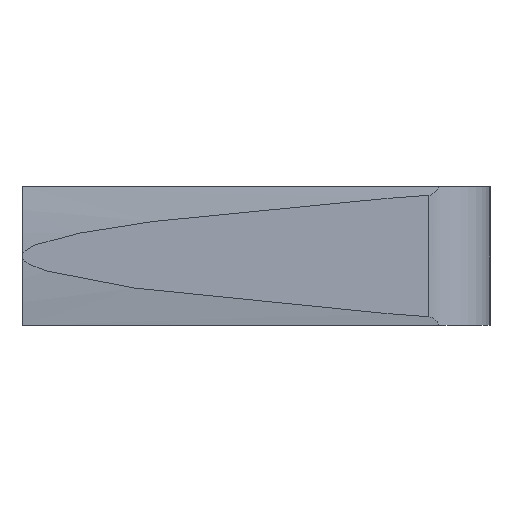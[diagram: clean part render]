
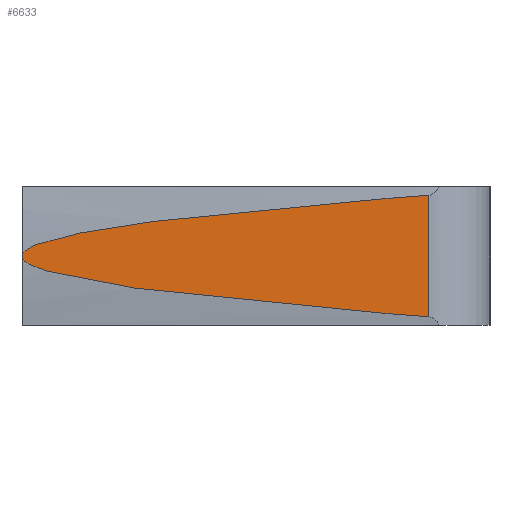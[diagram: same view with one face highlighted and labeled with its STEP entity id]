
A CAD part, left-side view. The second image highlights one B-rep face of the part: STEP entity #6633.
In plain terms, the highlighted planar face has unit normal (-1, -0.009, 0).
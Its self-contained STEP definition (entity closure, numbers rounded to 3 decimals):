
#4833 = EDGE_CURVE( '', #7547, #9505, #11603, .T. );
#4857 = EDGE_CURVE( '', #9155, #5093, #11628, .T. );
#5093 = VERTEX_POINT( '', #11876 );
#6427 = VERTEX_POINT( '', #13318 );
#6633 = ADVANCED_FACE( '', ( #13539 ), #13540, .F. );
#6987 = EDGE_CURVE( '', #7547, #6427, #13924, .T. );
#7547 = VERTEX_POINT( '', #14533 );
#8113 = EDGE_CURVE( '', #9155, #9505, #15135, .T. );
#8837 = EDGE_CURVE( '', #6427, #5093, #15922, .T. );
#9155 = VERTEX_POINT( '', #16267 );
#9505 = VERTEX_POINT( '', #16636 );
#11603 = ( B_SPLINE_CURVE( 2, ( #19666, #19667, #19668 ), .UNSPECIFIED., .F., .F. )B_SPLINE_CURVE_WITH_KNOTS( ( 3, 3 ), ( 52.222, 53.646 ), .UNSPECIFIED. )RATIONAL_B_SPLINE_CURVE( ( 1., 1., 1. ) )BOUNDED_CURVE(  )REPRESENTATION_ITEM( '' )GEOMETRIC_REPRESENTATION_ITEM(  )CURVE(  ) );
#11628 = ( B_SPLINE_CURVE( 2, ( #19716, #19717, #19718 ), .UNSPECIFIED., .F., .F. )B_SPLINE_CURVE_WITH_KNOTS( ( 3, 3 ), ( 0., 1.423 ), .UNSPECIFIED. )RATIONAL_B_SPLINE_CURVE( ( 1., 1., 1. ) )BOUNDED_CURVE(  )REPRESENTATION_ITEM( '' )GEOMETRIC_REPRESENTATION_ITEM(  )CURVE(  ) );
#11876 = CARTESIAN_POINT( '', ( -19.793, -23.708, 3.74 ) );
#13318 = CARTESIAN_POINT( '', ( -20., 0., 0. ) );
#13539 = FACE_OUTER_BOUND( '', #22803, .T. );
#13540 = PLANE( '', #22804 );
#13924 = ( B_SPLINE_CURVE( 2, ( #23441, #23442, #23443, #23444, #23445 ), .UNSPECIFIED., .F., .F. )B_SPLINE_CURVE_WITH_KNOTS( ( 3, 1, 1, 3 ), ( 0.371, 5.403, 10.047, 24.819 ), .UNSPECIFIED. )RATIONAL_B_SPLINE_CURVE( ( 1., 1., 0.999, 0.999, 1. ) )BOUNDED_CURVE(  )REPRESENTATION_ITEM( '' )GEOMETRIC_REPRESENTATION_ITEM(  )CURVE(  ) );
#14533 = CARTESIAN_POINT( '', ( -19.793, -23.708, -3.74 ) );
#15135 = LINE( '', #25524, #25525 );
#15922 = ( B_SPLINE_CURVE( 2, ( #26824, #26825, #26826, #26827, #26828 ), .UNSPECIFIED., .F., .F. )B_SPLINE_CURVE_WITH_KNOTS( ( 3, 1, 1, 3 ), ( 24.819, 39.572, 44.221, 49.267 ), .UNSPECIFIED. )RATIONAL_B_SPLINE_CURVE( ( 1., 0.999, 0.999, 1., 1. ) )BOUNDED_CURVE(  )REPRESENTATION_ITEM( '' )GEOMETRIC_REPRESENTATION_ITEM(  )CURVE(  ) );
#16267 = CARTESIAN_POINT( '', ( -19.769, -26.435, 3.948 ) );
#16636 = CARTESIAN_POINT( '', ( -19.769, -26.435, -3.948 ) );
#19666 = CARTESIAN_POINT( '', ( -19.793, -23.708, -3.74 ) );
#19667 = CARTESIAN_POINT( '', ( -19.782, -25.034, -3.844 ) );
#19668 = CARTESIAN_POINT( '', ( -19.769, -26.435, -3.948 ) );
#19716 = CARTESIAN_POINT( '', ( -19.769, -26.435, 3.948 ) );
#19717 = CARTESIAN_POINT( '', ( -19.782, -25.034, 3.844 ) );
#19718 = CARTESIAN_POINT( '', ( -19.793, -23.708, 3.74 ) );
#22803 = EDGE_LOOP( '', ( #32793, #32794, #32795, #32796, #32797 ) );
#22804 = AXIS2_PLACEMENT_3D( '', #32798, #32799, #32800 );
#23441 = CARTESIAN_POINT( '', ( -19.793, -23.708, -3.74 ) );
#23442 = CARTESIAN_POINT( '', ( -19.836, -18.834, -3.356 ) );
#23443 = CARTESIAN_POINT( '', ( -19.901, -11.384, -2.618 ) );
#23444 = CARTESIAN_POINT( '', ( -20., 0., -1.133 ) );
#23445 = CARTESIAN_POINT( '', ( -20., 0., 0. ) );
#25524 = CARTESIAN_POINT( '', ( -19.769, -26.435, 32. ) );
#25525 = VECTOR( '', #34843, 1. );
#26824 = CARTESIAN_POINT( '', ( -20., 0., 0. ) );
#26825 = CARTESIAN_POINT( '', ( -20., 0., 1.131 ) );
#26826 = CARTESIAN_POINT( '', ( -19.901, -11.361, 2.615 ) );
#26827 = CARTESIAN_POINT( '', ( -19.836, -18.821, 3.355 ) );
#26828 = CARTESIAN_POINT( '', ( -19.793, -23.708, 3.74 ) );
#32793 = ORIENTED_EDGE( '', *, *, #4833, .T. );
#32794 = ORIENTED_EDGE( '', *, *, #8113, .F. );
#32795 = ORIENTED_EDGE( '', *, *, #4857, .T. );
#32796 = ORIENTED_EDGE( '', *, *, #8837, .F. );
#32797 = ORIENTED_EDGE( '', *, *, #6987, .F. );
#32798 = CARTESIAN_POINT( '', ( -19.769, -26.435, 32. ) );
#32799 = DIRECTION( '', ( 1., 0.009, 0. ) );
#32800 = DIRECTION( '', ( 0.009, -1., 0. ) );
#34843 = DIRECTION( '', ( 0., 0., -1. ) );
